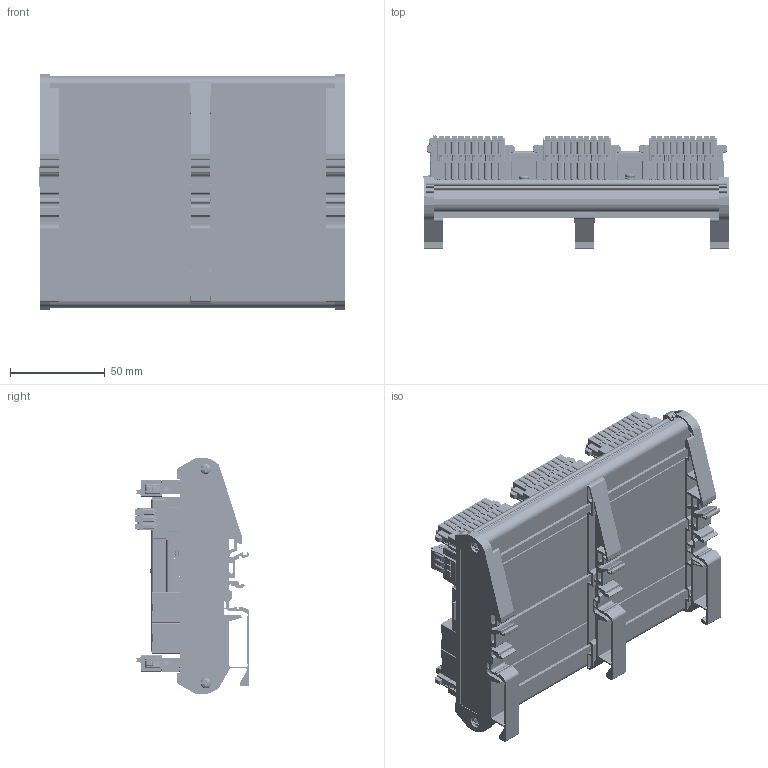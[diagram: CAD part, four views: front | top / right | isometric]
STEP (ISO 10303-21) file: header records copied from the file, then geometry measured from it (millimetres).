
FILE_DESCRIPTION((''),'2;1');
FILE_NAME('AK800-1_ASM','2022-09-21T09:32:46',('RD0060'),(''),'CREO PARAMETRIC BY PTC INC, 2016510','CREO PARAMETRIC BY PTC INC, 2016510','');
FILE_SCHEMA(('CONFIG_CONTROL_DESIGN'));
Products named in the file (38): PCB-F2__2_1; C-2301995-3-A-3D__2_1; 0225-2210-20180112__2_1; 0225-0210-20180112__2_1; 10P__ASM_2_ASM_1_ASM; 1532_2_1; 1827871_08__2_1; FMC_1_5-3-STF-3_81-113780__2_1; FMC_1_5-3-STF-3_81-115520__ASM__ASM; 1748367_01__ASM_2_ASM_1_ASM; 3P-24V__ASM_2_ASM_1_ASM; TFKAIZUO__2_1; TF__2_1; PCB-SD__2_1; TF-ASM__ASM_2_ASM_1_ASM; BATTERY__2_1; BATTERY__ASM_2_ASM_1_ASM; M3X6-CU__2_1; SAN-M3X6__2_1_1; SAN-M3X6__2_2_1; SAN-M3X6__2_ASM_1_ASM; PCB-F2-ASM__ASM_2_ASM_1_ASM; DINKLE_KMRFC-154__2_1; KMRF-PP_2__2_1; KMRFMR_12__2_1; KMRFML_12__2_1; S000024300_1__2_1; DINKE-KMRF-160__ASM_2_ASM_1_ASM; AK800HS__2_1; HS1_2_1; M3-9_2_1; SPACER_2_1; AK800HS_ASM_2_ASM_1_ASM; AK800FM_2_1; 000-AK800_ASM_2_ASM_1_ASM; SWITCH_2; AK800_ASM_1_ASM; AK800-1_ASM
Assembly tree (62 placements, depth 8):
  AK800-1_ASM
    AK800_ASM_1_ASM
      000-AK800_ASM_2_ASM_1_ASM
        PCB-F2-ASM__ASM_2_ASM_1_ASM
          PCB-F2__2_1
          C-2301995-3-A-3D__2_1  x6
          10P__ASM_2_ASM_1_ASM  x6
            0225-2210-20180112__2_1
            0225-0210-20180112__2_1
          1532_2_1
          3P-24V__ASM_2_ASM_1_ASM
            1827871_08__2_1
            1748367_01__ASM_2_ASM_1_ASM
              FMC_1_5-3-STF-3_81-115520__ASM__ASM
                FMC_1_5-3-STF-3_81-113780__2_1
          TF-ASM__ASM_2_ASM_1_ASM
            TFKAIZUO__2_1
            TF__2_1
            PCB-SD__2_1
          BATTERY__ASM_2_ASM_1_ASM
            BATTERY__2_1
          M3X6-CU__2_1  x4
          SAN-M3X6__2_ASM_1_ASM  x4
            SAN-M3X6__2_1_1
            SAN-M3X6__2_2_1
        DINKE-KMRF-160__ASM_2_ASM_1_ASM
          DINKLE_KMRFC-154__2_1
          KMRF-PP_2__2_1
          KMRFMR_12__2_1
          KMRFML_12__2_1
          S000024300_1__2_1  x4
        AK800HS_ASM_2_ASM_1_ASM
          AK800HS__2_1
          HS1_2_1
          M3-9_2_1  x4
          SPACER_2_1  x4
        AK800FM_2_1
      SWITCH_2
Bounding box: 161.4 x 60.51 x 125 mm (x, y, z)
Volume: 199284.9 mm3; surface area: 261069.3 mm2
Topology: 58 solids, 124 shells, 25670 faces, 70437 edges, 44544 vertices
Faces by surface type: plane 14374, cylinder 7176, bspline 2474, torus 1010, cone 430, sphere 206
Entity records: 222871 total; most frequent: CARTESIAN_POINT 57834, ORIENTED_EDGE 35556, DIRECTION 32857, EDGE_CURVE 17778, VECTOR 11717, LINE 11717, VERTEX_POINT 11565, AXIS2_PLACEMENT_3D 10570
